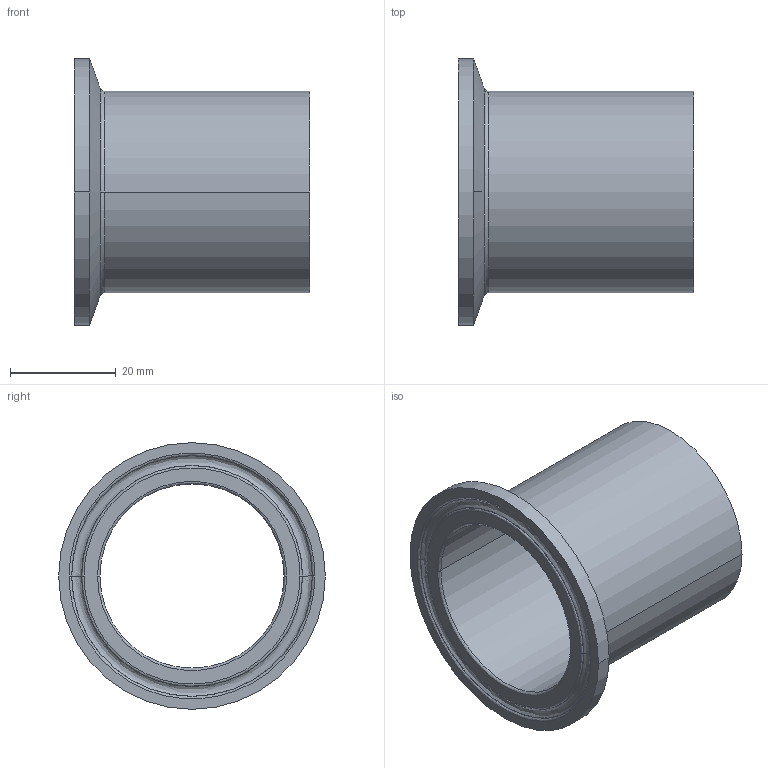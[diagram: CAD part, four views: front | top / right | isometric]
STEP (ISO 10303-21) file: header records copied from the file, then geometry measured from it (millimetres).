
FILE_DESCRIPTION (( 'STEP AP214' ), '1' );
FILE_NAME ('TEG14AM76L1.5.STEP', '2016-05-23T03:50:11', ( 'eran' ), ( '' ), 'SwSTEP 2.0', 'SolidWorks 2016', '' );
FILE_SCHEMA (( 'AUTOMOTIVE_DESIGN' ));
Length unit declared in the file: millimetre
Products named in the file (1): TEG14AM76L1.5
Bounding box: 44.5 x 50.39 x 50.39 mm (x, y, z)
Volume: 11582.2 mm3; surface area: 12213.7 mm2
Topology: 1 solids, 1 shells, 25 faces, 62 edges, 40 vertices
Faces by surface type: bspline 10, cylinder 6, cone 6, plane 3
Entity records: 1427 total; most frequent: CARTESIAN_POINT 802, DIRECTION 132, ORIENTED_EDGE 124, EDGE_CURVE 62, AXIS2_PLACEMENT_3D 60, CIRCLE 44, VERTEX_POINT 40, EDGE_LOOP 28
